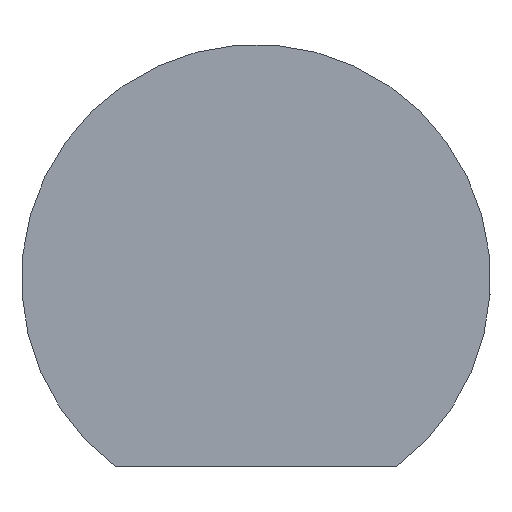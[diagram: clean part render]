
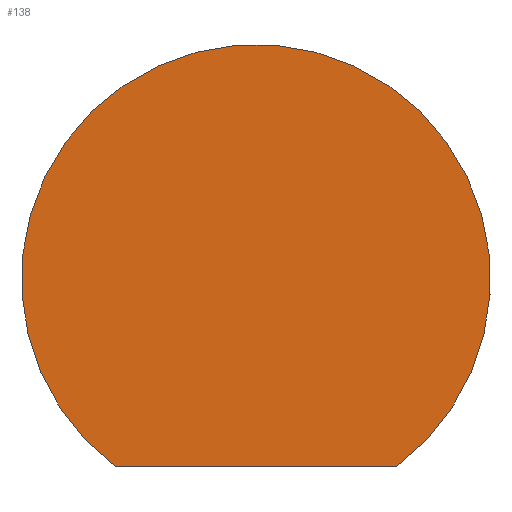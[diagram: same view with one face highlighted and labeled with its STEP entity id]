
A CAD part, left-side view. The second image highlights one B-rep face of the part: STEP entity #138.
In plain terms, the highlighted planar face has unit normal (-1, 0, 0).
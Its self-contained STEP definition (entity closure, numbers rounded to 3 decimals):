
#21 = EDGE_CURVE('',#22,#24,#26,.T.);
#22 = VERTEX_POINT('',#23);
#23 = CARTESIAN_POINT('',(-2.,31.5,31.));
#24 = VERTEX_POINT('',#25);
#25 = CARTESIAN_POINT('',(-2.,28.5,31.));
#26 = SURFACE_CURVE('',#27,(#32,#44),.PCURVE_S1.);
#27 = CIRCLE('',#28,2.5);
#28 = AXIS2_PLACEMENT_3D('',#29,#30,#31);
#29 = CARTESIAN_POINT('',(-2.,30.,33.));
#30 = DIRECTION('',(1.,0.,0.));
#31 = DIRECTION('',(0.,0.6,-0.8));
#32 = PCURVE('',#33,#38);
#33 = CYLINDRICAL_SURFACE('',#34,2.5);
#34 = AXIS2_PLACEMENT_3D('',#35,#36,#37);
#35 = CARTESIAN_POINT('',(-2.,30.,33.));
#36 = DIRECTION('',(-1.,-0.,0.));
#37 = DIRECTION('',(0.,0.,-1.));
#38 = DEFINITIONAL_REPRESENTATION('',(#39),#43);
#39 = LINE('',#40,#41);
#40 = CARTESIAN_POINT('',(-0.644,0.));
#41 = VECTOR('',#42,1.);
#42 = DIRECTION('',(-1.,0.));
#43 = ( GEOMETRIC_REPRESENTATION_CONTEXT(2) 
PARAMETRIC_REPRESENTATION_CONTEXT() REPRESENTATION_CONTEXT('2D SPACE',''
  ) );
#44 = PCURVE('',#45,#50);
#45 = PLANE('',#46);
#46 = AXIS2_PLACEMENT_3D('',#47,#48,#49);
#47 = CARTESIAN_POINT('',(-2.,30.,33.));
#48 = DIRECTION('',(1.,0.,0.));
#49 = DIRECTION('',(0.,0.,-1.));
#50 = DEFINITIONAL_REPRESENTATION('',(#51),#55);
#51 = CIRCLE('',#52,2.5);
#52 = AXIS2_PLACEMENT_2D('',#53,#54);
#53 = CARTESIAN_POINT('',(0.,0.));
#54 = DIRECTION('',(0.8,0.6));
#55 = ( GEOMETRIC_REPRESENTATION_CONTEXT(2) 
PARAMETRIC_REPRESENTATION_CONTEXT() REPRESENTATION_CONTEXT('2D SPACE',''
  ) );
#73 = PLANE('',#74);
#74 = AXIS2_PLACEMENT_3D('',#75,#76,#77);
#75 = CARTESIAN_POINT('',(-2.,27.5,31.));
#76 = DIRECTION('',(0.,0.,-1.));
#77 = DIRECTION('',(1.,0.,0.));
#138 = ADVANCED_FACE('',(#139),#45,.F.);
#139 = FACE_BOUND('',#140,.F.);
#140 = EDGE_LOOP('',(#141,#162));
#141 = ORIENTED_EDGE('',*,*,#142,.T.);
#142 = EDGE_CURVE('',#24,#22,#143,.T.);
#143 = SURFACE_CURVE('',#144,(#148,#155),.PCURVE_S1.);
#144 = LINE('',#145,#146);
#145 = CARTESIAN_POINT('',(-2.,27.5,31.));
#146 = VECTOR('',#147,1.);
#147 = DIRECTION('',(0.,1.,0.));
#148 = PCURVE('',#45,#149);
#149 = DEFINITIONAL_REPRESENTATION('',(#150),#154);
#150 = LINE('',#151,#152);
#151 = CARTESIAN_POINT('',(2.,-2.5));
#152 = VECTOR('',#153,1.);
#153 = DIRECTION('',(0.,1.));
#154 = ( GEOMETRIC_REPRESENTATION_CONTEXT(2) 
PARAMETRIC_REPRESENTATION_CONTEXT() REPRESENTATION_CONTEXT('2D SPACE',''
  ) );
#155 = PCURVE('',#73,#156);
#156 = DEFINITIONAL_REPRESENTATION('',(#157),#161);
#157 = LINE('',#158,#159);
#158 = CARTESIAN_POINT('',(0.,0.));
#159 = VECTOR('',#160,1.);
#160 = DIRECTION('',(0.,-1.));
#161 = ( GEOMETRIC_REPRESENTATION_CONTEXT(2) 
PARAMETRIC_REPRESENTATION_CONTEXT() REPRESENTATION_CONTEXT('2D SPACE',''
  ) );
#162 = ORIENTED_EDGE('',*,*,#21,.T.);
